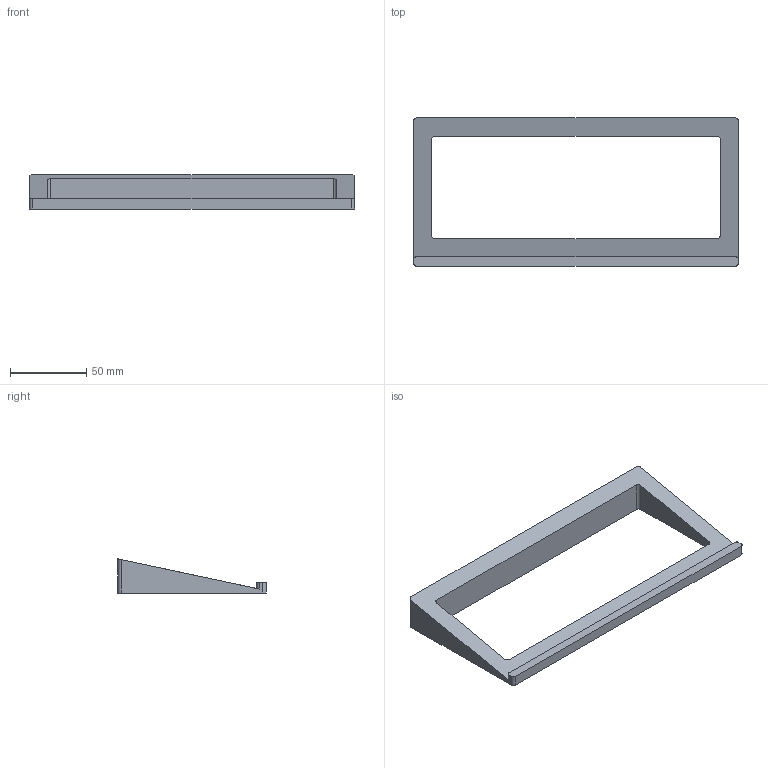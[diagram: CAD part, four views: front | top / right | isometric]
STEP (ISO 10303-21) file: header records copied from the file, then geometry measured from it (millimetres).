
FILE_DESCRIPTION(('Open CASCADE Model'),'2;1');
FILE_NAME('Open CASCADE Shape Model','2026-10-18T12:33:37',('Author'),( 'Open CASCADE'),'Open CASCADE STEP processor 7.9','Open CASCADE 7.9' ,'Unknown');
FILE_SCHEMA(('AUTOMOTIVE_DESIGN { 1 0 10303 214 1 1 1 1 }'));
Length unit declared in the file: millimetre
Products named in the file (1): Open CASCADE STEP translator 7.9 4
Bounding box: 213 x 97 x 22.34 mm (x, y, z)
Volume: 94083.6 mm3; surface area: 32025.3 mm2
Topology: 1 solids, 1 shells, 22 faces, 60 edges, 40 vertices
Faces by surface type: plane 12, cylinder 10
Entity records: 1544 total; most frequent: CARTESIAN_POINT 351, DIRECTION 220, LINE 124, VECTOR 124, ORIENTED_EDGE 120, PCURVE 120, DEFINITIONAL_REPRESENTATION 120, EDGE_CURVE 60
